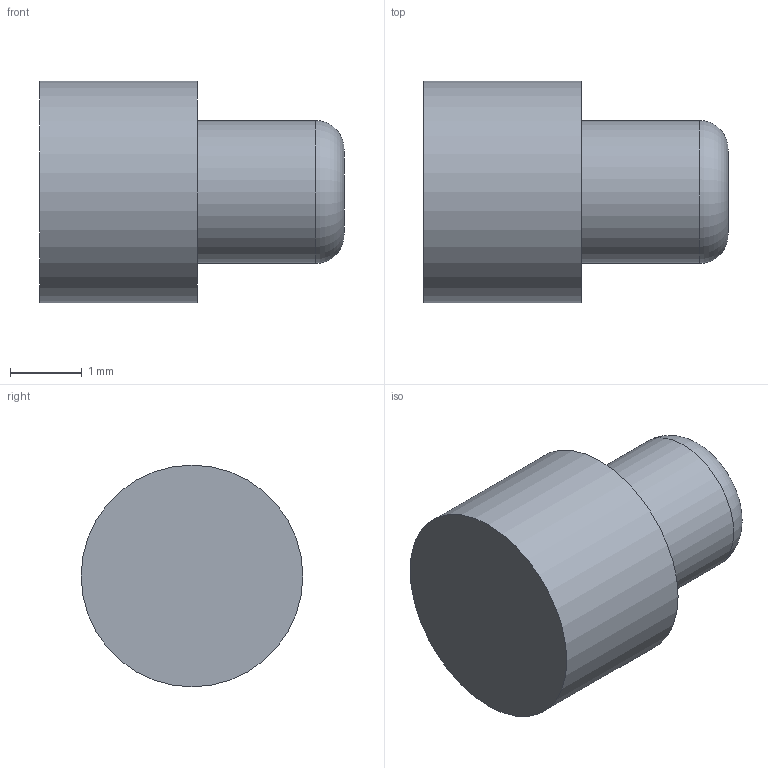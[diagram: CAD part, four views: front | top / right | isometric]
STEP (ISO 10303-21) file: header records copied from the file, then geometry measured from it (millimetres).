
FILE_DESCRIPTION(('Open CASCADE Model'),'2;1');
FILE_NAME('Open CASCADE Shape Model','2026-10-08T17:45:57',('Author'),( 'Open CASCADE'),'Open CASCADE STEP processor 8.0','build123d', 'Unknown');
FILE_SCHEMA(('AUTOMOTIVE_DESIGN { 1 0 10303 214 1 1 1 1 }'));
Length unit declared in the file: millimetre
Products named in the file (1): COMPOUND
Bounding box: 4.25 x 3.1 x 3.1 mm (x, y, z)
Volume: 22.8 mm3; surface area: 48.3 mm2
Topology: 1 solids, 1 shells, 6 faces, 8 edges, 5 vertices
Faces by surface type: plane 3, cylinder 2, torus 1
Full cylindrical faces by diameter (mm): 2 x1, 3.1 x1
Entity records: 242 total; most frequent: DIRECTION 42, CARTESIAN_POINT 38, ORIENTED_EDGE 16, PCURVE 16, DEFINITIONAL_REPRESENTATION 16, AXIS2_PLACEMENT_3D 13, LINE 12, VECTOR 12
